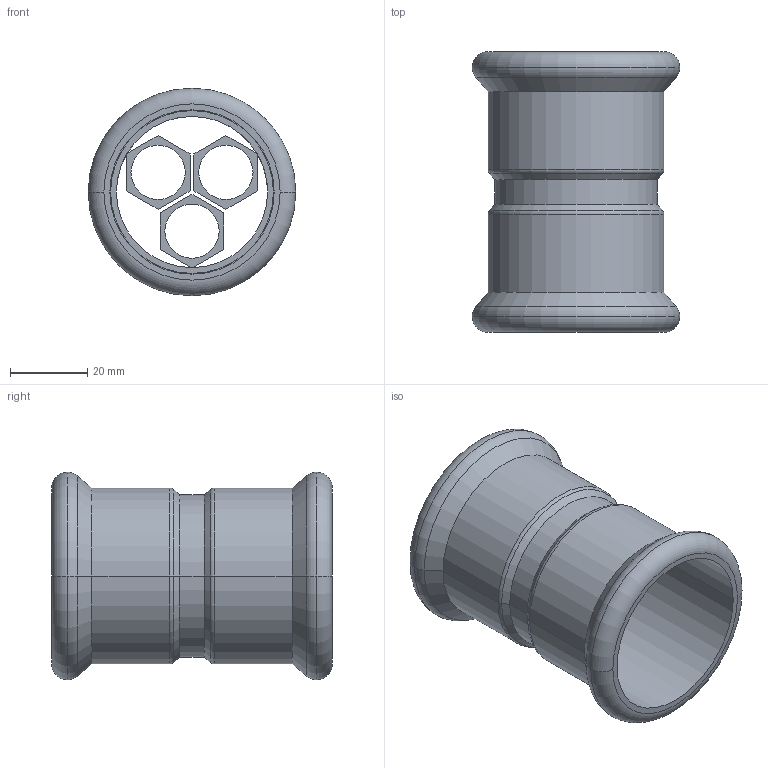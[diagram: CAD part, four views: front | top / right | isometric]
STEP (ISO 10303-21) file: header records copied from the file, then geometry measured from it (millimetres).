
FILE_DESCRIPTION(('OneSpaceDesigner STEP Export'),'2;1');
FILE_NAME('R2701 42x42.stp','2010-06-08T13:14:49',(''),(''),'OneSpace Designer STEP processor for AP214 (Solid Model)','OneSpace Modeling 15.00A 14-Mar-2007 (C) CoCreate Software GmbH','');
FILE_SCHEMA(('AUTOMOTIVE_DESIGN { 1 0 10303 214 1 1 1 1 }'));
Length unit declared in the file: millimetre
Products named in the file (2): R2701_42x42
Assembly tree (1 placements, depth 2):
  R2701_42x42
    R2701_42x42
Bounding box: 53.55 x 72.4 x 53.55 mm (x, y, z)
Volume: 25622.1 mm3; surface area: 24999.9 mm2
Topology: 1 solids, 1 shells, 114 faces, 284 edges, 182 vertices
Faces by surface type: plane 60, cylinder 34, torus 12, cone 8
Entity records: 3025 total; most frequent: ORIENTED_EDGE 568, CARTESIAN_POINT 492, DIRECTION 446, EDGE_CURVE 284, VERTEX_POINT 182, VECTOR 174, LINE 174, EDGE_LOOP 138
